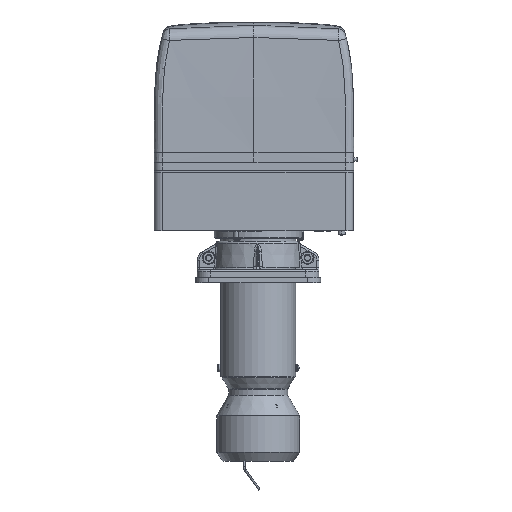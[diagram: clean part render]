
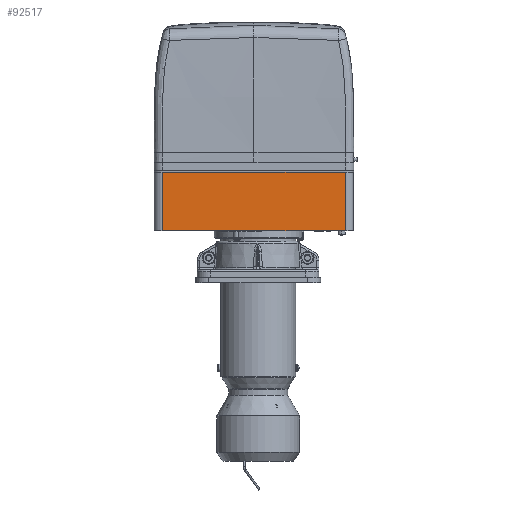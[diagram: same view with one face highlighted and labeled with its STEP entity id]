
A CAD part, front view. The second image highlights one B-rep face of the part: STEP entity #92517.
In plain terms, the highlighted planar face has unit normal (0, -1, 0).
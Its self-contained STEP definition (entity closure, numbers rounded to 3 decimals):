
#2681 = DIRECTION ( 'NONE',  ( 1., 0., 0. ) ) ;
#4248 = ORIENTED_EDGE ( 'NONE', *, *, #65955, .T. ) ;
#6082 = AXIS2_PLACEMENT_3D ( 'NONE', #8217, #59611, #37229 ) ;
#6957 = DIRECTION ( 'NONE',  ( 1., 0., 0. ) ) ;
#8104 = LINE ( 'NONE', #8572, #36397 ) ;
#8217 = CARTESIAN_POINT ( 'NONE',  ( -96.251, -210.082, 307.75 ) ) ;
#8542 = VERTEX_POINT ( 'NONE', #75870 ) ;
#8572 = CARTESIAN_POINT ( 'NONE',  ( -96.251, -210.082, 394.75 ) ) ;
#13462 = CARTESIAN_POINT ( 'NONE',  ( -96.251, -210.082, 307.75 ) ) ;
#16191 = LINE ( 'NONE', #46469, #95060 ) ;
#30534 = EDGE_CURVE ( 'NONE', #38162, #90468, #84702, .T. ) ;
#36397 = VECTOR ( 'NONE', #6957, 1000. ) ;
#36603 = EDGE_CURVE ( 'NONE', #61972, #38162, #8104, .T. ) ;
#37229 = DIRECTION ( 'NONE',  ( -1., 0., 0. ) ) ;
#38162 = VERTEX_POINT ( 'NONE', #65425 ) ;
#39536 = CARTESIAN_POINT ( 'NONE',  ( 181.749, -210.082, 305.25 ) ) ;
#42314 = CARTESIAN_POINT ( 'NONE',  ( 181.749, -210.082, 307.75 ) ) ;
#44656 = VECTOR ( 'NONE', #49213, 1000. ) ;
#46469 = CARTESIAN_POINT ( 'NONE',  ( -96.251, -210.082, 305.25 ) ) ;
#49213 = DIRECTION ( 'NONE',  ( 0., 0., -1. ) ) ;
#52296 = EDGE_CURVE ( 'NONE', #8542, #90468, #16191, .T. ) ;
#55606 = ORIENTED_EDGE ( 'NONE', *, *, #52296, .T. ) ;
#59611 = DIRECTION ( 'NONE',  ( 0., 1., 0. ) ) ;
#61905 = LINE ( 'NONE', #13462, #76089 ) ;
#61972 = VERTEX_POINT ( 'NONE', #96597 ) ;
#64431 = EDGE_LOOP ( 'NONE', ( #83285, #4248, #55606, #87411 ) ) ;
#65425 = CARTESIAN_POINT ( 'NONE',  ( 181.749, -210.082, 394.75 ) ) ;
#65955 = EDGE_CURVE ( 'NONE', #61972, #8542, #61905, .T. ) ;
#75870 = CARTESIAN_POINT ( 'NONE',  ( -96.251, -210.082, 305.25 ) ) ;
#76089 = VECTOR ( 'NONE', #95402, 1000. ) ;
#76716 = FACE_OUTER_BOUND ( 'NONE', #64431, .T. ) ;
#83285 = ORIENTED_EDGE ( 'NONE', *, *, #36603, .F. ) ;
#84702 = LINE ( 'NONE', #42314, #44656 ) ;
#87411 = ORIENTED_EDGE ( 'NONE', *, *, #30534, .F. ) ;
#90169 = PLANE ( 'NONE',  #6082 ) ;
#90468 = VERTEX_POINT ( 'NONE', #39536 ) ;
#92517 = ADVANCED_FACE ( 'NONE', ( #76716 ), #90169, .F. ) ;
#95060 = VECTOR ( 'NONE', #2681, 1000. ) ;
#95402 = DIRECTION ( 'NONE',  ( 0., 0., -1. ) ) ;
#96597 = CARTESIAN_POINT ( 'NONE',  ( -96.251, -210.082, 394.75 ) ) ;
